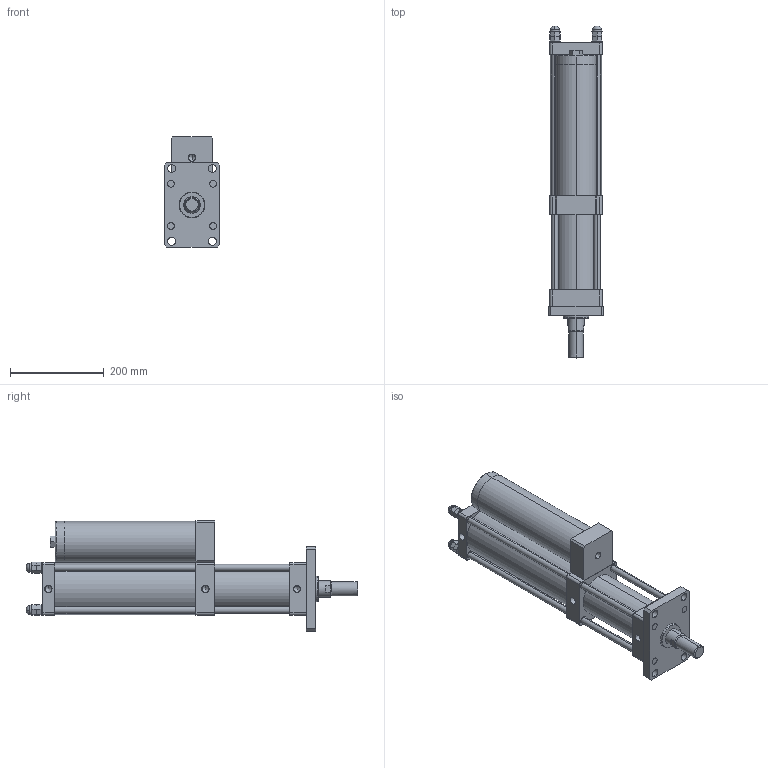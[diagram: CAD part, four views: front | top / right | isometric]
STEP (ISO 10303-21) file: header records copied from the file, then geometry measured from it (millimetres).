
FILE_DESCRIPTION (( 'STEP AP203' ), '1' );
FILE_NAME ('MPT-80-100-15-8T.STEP', '2016-03-11T03:28:00', ( 'WIN' ), ( '' ), 'SwSTEP 2.0', 'SolidWorks 2014', '' );
FILE_SCHEMA (( 'CONFIG_CONTROL_DESIGN' ));
Length unit declared in the file: millimetre
Products named in the file (1): MPT-80-100-15-8T
Bounding box: 118 x 707.01 x 235 mm (x, y, z)
Volume: 6587154.1 mm3; surface area: 717159.6 mm2
Topology: 20 solids, 20 shells, 400 faces, 968 edges, 562 vertices
Faces by surface type: plane 187, cylinder 90, torus 48, bspline 48, cone 27
Entity records: 12732 total; most frequent: CARTESIAN_POINT 3707, DIRECTION 1901, ORIENTED_EDGE 1804, EDGE_CURVE 902, AXIS2_PLACEMENT_3D 700, VERTEX_POINT 562, VECTOR 501, LINE 501
